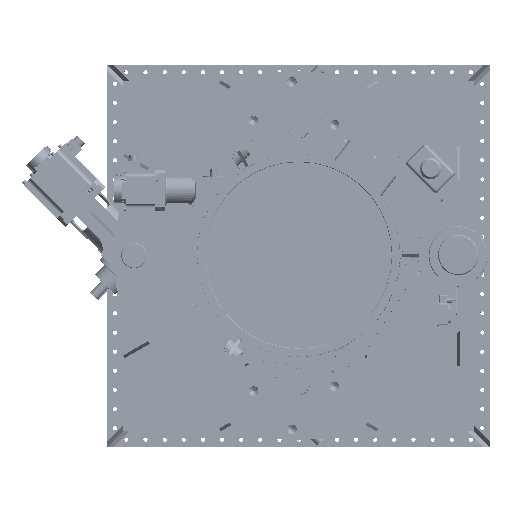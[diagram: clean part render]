
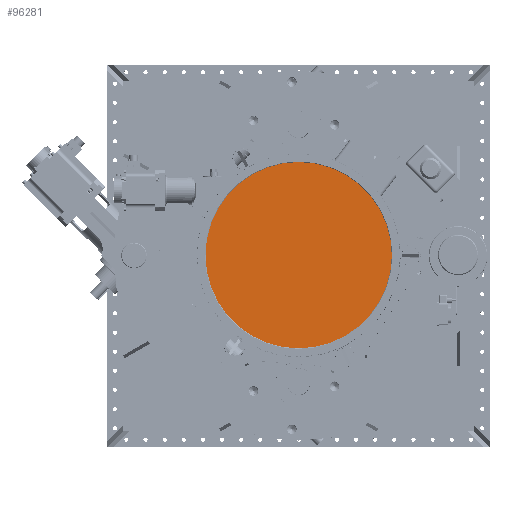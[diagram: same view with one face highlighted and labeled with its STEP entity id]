
A CAD part, top view. The second image highlights one B-rep face of the part: STEP entity #96281.
In plain terms, the highlighted planar face has unit normal (0, 0, 1).
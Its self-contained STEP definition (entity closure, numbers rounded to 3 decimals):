
#3232=PLANE('',#104882);
#8285=FACE_OUTER_BOUND('',#14040,.T.);
#14040=EDGE_LOOP('',(#75728));
#33438=CIRCLE('',#104617,292.1);
#41003=VERTEX_POINT('',#162333);
#53099=EDGE_CURVE('',#41003,#41003,#33438,.T.);
#75728=ORIENTED_EDGE('',*,*,#53099,.F.);
#96281=ADVANCED_FACE('',(#8285),#3232,.T.);
#104617=AXIS2_PLACEMENT_3D('',#162335,#125645,#125646);
#104882=AXIS2_PLACEMENT_3D('',#163547,#126282,#126283);
#125645=DIRECTION('center_axis',(0.,0.,
-1.));
#125646=DIRECTION('ref_axis',(-0.5,0.866,0.));
#126282=DIRECTION('center_axis',(0.,0.,
1.));
#126283=DIRECTION('ref_axis',(0.5,-0.866,0.));
#162333=CARTESIAN_POINT('',(146.05,-252.966,1503.65));
#162335=CARTESIAN_POINT('Origin',(0.,0.,
1503.65));
#163547=CARTESIAN_POINT('Origin',(0.,0.,
1503.65));
